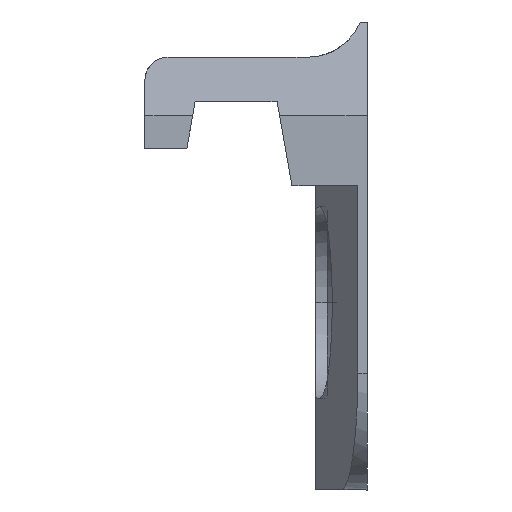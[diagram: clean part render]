
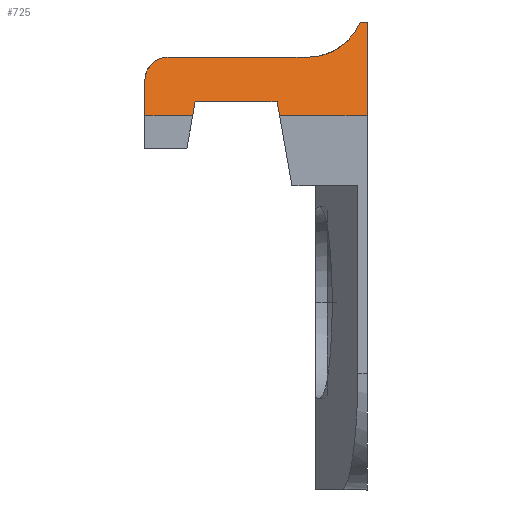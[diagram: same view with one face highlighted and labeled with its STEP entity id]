
A CAD part, front view. The second image highlights one B-rep face of the part: STEP entity #725.
In plain terms, the highlighted planar face has unit normal (0, -0.574, 0.819).
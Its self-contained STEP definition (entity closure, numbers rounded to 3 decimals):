
#122 = EDGE_CURVE ( 'NONE', #2772, #2778, #2463, .T. ) ;
#138 = EDGE_CURVE ( 'NONE', #3048, #3037, #2447, .T. ) ;
#142 = EDGE_CURVE ( 'NONE', #3037, #3038, #2452, .T. ) ;
#144 = EDGE_CURVE ( 'NONE', #2778, #3040, #2453, .T. ) ;
#147 = EDGE_CURVE ( 'NONE', #3040, #3042, #2598, .T. ) ;
#150 = EDGE_CURVE ( 'NONE', #3042, #3044, #2425, .T. ) ;
#153 = EDGE_CURVE ( 'NONE', #3044, #3048, #2597, .T. ) ;
#156 = EDGE_CURVE ( 'NONE', #3030, #3032, #2412, .T. ) ;
#158 = EDGE_CURVE ( 'NONE', #3038, #3027, #2408, .T. ) ;
#164 = EDGE_CURVE ( 'NONE', #3027, #3030, #2416, .T. ) ;
#180 = EDGE_CURVE ( 'NONE', #3032, #2772, #2375, .T. ) ;
#361 = CARTESIAN_POINT ( 'NONE',  ( 0., -31.5, 8. ) ) ;
#367 = CARTESIAN_POINT ( 'NONE',  ( 0., -25.787, 12. ) ) ;
#427 = CARTESIAN_POINT ( 'NONE',  ( -7.35, -30.643, 8.6 ) ) ;
#430 = CARTESIAN_POINT ( 'NONE',  ( -3.85, -30.643, 8.6 ) ) ;
#432 = CARTESIAN_POINT ( 'NONE',  ( -3.744, -31.5, 8. ) ) ;
#437 = CARTESIAN_POINT ( 'NONE',  ( -9.5, -31.5, 8. ) ) ;
#438 = CARTESIAN_POINT ( 'NONE',  ( -7.456, -31.5, 8. ) ) ;
#440 = CARTESIAN_POINT ( 'NONE',  ( -0.3, -25.787, 12. ) ) ;
#442 = CARTESIAN_POINT ( 'NONE',  ( -2.525, -27.93, 10.5 ) ) ;
#444 = CARTESIAN_POINT ( 'NONE',  ( -8.5, -27.93, 10.5 ) ) ;
#448 = CARTESIAN_POINT ( 'NONE',  ( -9.5, -29.358, 9.5 ) ) ;
#596 = AXIS2_PLACEMENT_3D ( 'NONE', #1177, #1180, #1181 ) ;
#725 = ADVANCED_FACE ( 'NONE', ( #2163 ), #1178, .F. ) ;
#776 = CARTESIAN_POINT ( 'NONE',  ( -9.5, 244.298, 201.116 ) ) ;
#777 = DIRECTION ( 'NONE',  ( 0., -0.819, -0.574 ) ) ;
#782 = CARTESIAN_POINT ( 'NONE',  ( -8.5, -31.5, 8. ) ) ;
#784 = CARTESIAN_POINT ( 'NONE',  ( -0.3, -25.787, 12. ) ) ;
#785 = DIRECTION ( 'NONE',  ( 1., 0., 0. ) ) ;
#789 = DIRECTION ( 'NONE',  ( -1., 0., 0. ) ) ;
#792 = CARTESIAN_POINT ( 'NONE',  ( -0.3, -25.787, 12. ) ) ;
#795 = CARTESIAN_POINT ( 'NONE',  ( -8.5, -27.93, 10.5 ) ) ;
#796 = CARTESIAN_POINT ( 'NONE',  ( -0.679, -27.124, 11.064 ) ) ;
#797 = CARTESIAN_POINT ( 'NONE',  ( -1.515, -27.93, 10.5 ) ) ;
#798 = CARTESIAN_POINT ( 'NONE',  ( -2.525, -27.93, 10.5 ) ) ;
#804 = DIRECTION ( 'NONE',  ( -1., 0., 0. ) ) ;
#807 = CARTESIAN_POINT ( 'NONE',  ( -8.5, -27.93, 10.5 ) ) ;
#810 = CARTESIAN_POINT ( 'NONE',  ( -3.85, -30.643, 8.6 ) ) ;
#811 = CARTESIAN_POINT ( 'NONE',  ( -9.086, -27.93, 10.5 ) ) ;
#812 = CARTESIAN_POINT ( 'NONE',  ( -9.5, -28.521, 10.086 ) ) ;
#813 = CARTESIAN_POINT ( 'NONE',  ( -9.5, -29.358, 9.5 ) ) ;
#818 = CARTESIAN_POINT ( 'NONE',  ( -37.354, 240.718, 198.609 ) ) ;
#819 = DIRECTION ( 'NONE',  ( 0.101, -0.815, -0.571 ) ) ;
#822 = CARTESIAN_POINT ( 'NONE',  ( 26.367, 242.445, 199.818 ) ) ;
#823 = DIRECTION ( 'NONE',  ( 0.101, 0.815, 0.571 ) ) ;
#835 = DIRECTION ( 'NONE',  ( 1., 0., 0. ) ) ;
#860 = CARTESIAN_POINT ( 'NONE',  ( -8.5, -31.5, 8. ) ) ;
#871 = DIRECTION ( 'NONE',  ( 1., 0., 0. ) ) ;
#1177 = CARTESIAN_POINT ( 'NONE',  ( -8.5, -31.5, 8. ) ) ;
#1178 = PLANE ( 'NONE',  #596 ) ;
#1180 = DIRECTION ( 'NONE',  ( 0., 0.574, -0.819 ) ) ;
#1181 = DIRECTION ( 'NONE',  ( 0., 0.819, 0.574 ) ) ;
#1488 = ORIENTED_EDGE ( 'NONE', *, *, #144, .T. ) ;
#1491 = ORIENTED_EDGE ( 'NONE', *, *, #122, .T. ) ;
#1493 = ORIENTED_EDGE ( 'NONE', *, *, #180, .T. ) ;
#1495 = ORIENTED_EDGE ( 'NONE', *, *, #156, .T. ) ;
#1498 = ORIENTED_EDGE ( 'NONE', *, *, #164, .T. ) ;
#1500 = ORIENTED_EDGE ( 'NONE', *, *, #158, .T. ) ;
#1502 = ORIENTED_EDGE ( 'NONE', *, *, #142, .T. ) ;
#1504 = ORIENTED_EDGE ( 'NONE', *, *, #138, .T. ) ;
#1506 = ORIENTED_EDGE ( 'NONE', *, *, #153, .T. ) ;
#1508 = ORIENTED_EDGE ( 'NONE', *, *, #150, .T. ) ;
#1513 = ORIENTED_EDGE ( 'NONE', *, *, #147, .T. ) ;
#1933 = EDGE_LOOP ( 'NONE', ( #1513, #1508, #1506, #1504, #1502, #1500, #1498, #1495, #1493, #1491, #1488 ) ) ;
#2163 = FACE_OUTER_BOUND ( 'NONE', #1933, .T. ) ;
#2369 = VECTOR ( 'NONE', #871, 1000. ) ;
#2375 = LINE ( 'NONE', #860, #2369 ) ;
#2396 = VECTOR ( 'NONE', #835, 1000. ) ;
#2407 = VECTOR ( 'NONE', #823, 1000. ) ;
#2408 = LINE ( 'NONE', #822, #2407 ) ;
#2411 = VECTOR ( 'NONE', #819, 1000. ) ;
#2412 = LINE ( 'NONE', #818, #2411 ) ;
#2416 = LINE ( 'NONE', #810, #2396 ) ;
#2421 = VECTOR ( 'NONE', #804, 1000. ) ;
#2425 = LINE ( 'NONE', #795, #2421 ) ;
#2430 = VECTOR ( 'NONE', #789, 1000. ) ;
#2434 = VECTOR ( 'NONE', #785, 1000. ) ;
#2444 = VECTOR ( 'NONE', #777, 1000. ) ;
#2447 = LINE ( 'NONE', #776, #2444 ) ;
#2452 = LINE ( 'NONE', #782, #2434 ) ;
#2453 = LINE ( 'NONE', #784, #2430 ) ;
#2462 = VECTOR ( 'NONE', #2605, 1000. ) ;
#2463 = LINE ( 'NONE', #2606, #2462 ) ;
#2597 =( BOUNDED_CURVE ( )  B_SPLINE_CURVE ( 3, ( #807, #811, #812, #813 ),
 .UNSPECIFIED., .F., .F. ) 
 B_SPLINE_CURVE_WITH_KNOTS ( ( 4, 4 ),
 ( 3.142, 4.712 ),
 .UNSPECIFIED. ) 
 CURVE ( )  GEOMETRIC_REPRESENTATION_ITEM ( )  RATIONAL_B_SPLINE_CURVE ( ( 1., 0.805, 0.805, 1. ) ) 
 REPRESENTATION_ITEM ( '' )  );
#2598 =( BOUNDED_CURVE ( )  B_SPLINE_CURVE ( 3, ( #792, #796, #797, #798 ),
 .UNSPECIFIED., .F., .F. ) 
 B_SPLINE_CURVE_WITH_KNOTS ( ( 4, 4 ),
 ( 5.097, 6.283 ),
 .UNSPECIFIED. ) 
 CURVE ( )  GEOMETRIC_REPRESENTATION_ITEM ( )  RATIONAL_B_SPLINE_CURVE ( ( 1., 0.886, 0.886, 1. ) ) 
 REPRESENTATION_ITEM ( '' )  );
#2605 = DIRECTION ( 'NONE',  ( 0., 0.819, 0.574 ) ) ;
#2606 = CARTESIAN_POINT ( 'NONE',  ( 0., 246.836, 202.893 ) ) ;
#2772 = VERTEX_POINT ( 'NONE', #361 ) ;
#2778 = VERTEX_POINT ( 'NONE', #367 ) ;
#3027 = VERTEX_POINT ( 'NONE', #427 ) ;
#3030 = VERTEX_POINT ( 'NONE', #430 ) ;
#3032 = VERTEX_POINT ( 'NONE', #432 ) ;
#3037 = VERTEX_POINT ( 'NONE', #437 ) ;
#3038 = VERTEX_POINT ( 'NONE', #438 ) ;
#3040 = VERTEX_POINT ( 'NONE', #440 ) ;
#3042 = VERTEX_POINT ( 'NONE', #442 ) ;
#3044 = VERTEX_POINT ( 'NONE', #444 ) ;
#3048 = VERTEX_POINT ( 'NONE', #448 ) ;
